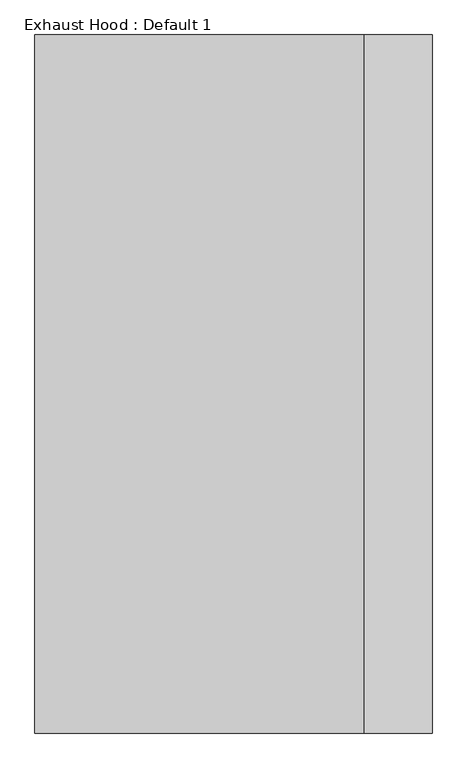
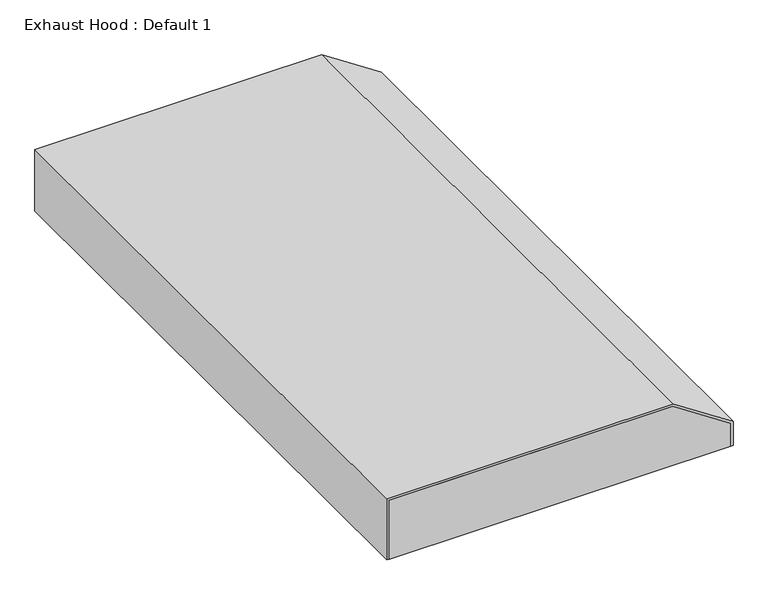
"""IFC4 building model written with IfcOpenShell, lengths in millimetres: proxy geometry, Exhaust Hood : Default 1."""

from ifc_helpers import new_model, si_unit, frame, origin, place, context, project, spatial, polyline, outline, extrude, source, transform, mapped, element, save


def exhaust_hood_default_1_44690a08(model_context):
    return source(origin(), model_context, "Body", "SweptSolid", [
        extrude(outline(polyline([(2279.65, 670.9336282), (2279.65, 6.35), (2133.6, 6.35), (2133.6, 806.45), (2189.8842631, 806.45), (2279.65, 670.9336282)])), frame((0.0, 1422.4, 0.0), z_axis=(0.0, 1.0, 0.0), x_axis=(0.0, 0.0, 1.0)), (0.0, 0.0, 1.0), 6.35),
        extrude(outline(polyline([(2279.65, 670.9336282), (2279.65, 6.35), (2133.6, 6.35), (2133.6, 806.45), (2189.8842631, 806.45), (2279.65, 670.9336282)])), frame((0.0, 0.0, 0.0), z_axis=(0.0, 1.0, 0.0), x_axis=(0.0, 0.0, 1.0)), (0.0, 0.0, 1.0), 6.35),
        extrude(outline(polyline([(2286.0, 672.8459942), (2286.0, 0.0), (2133.6, 0.0), (2133.6, 6.35), (2279.65, 6.35), (2279.65, 670.9336282), (2189.8842631, 806.45), (2133.6, 806.45), (2133.6, 812.8), (2193.2947845, 812.8), (2286.0, 672.8459942)])), frame((0.0, 0.0, 0.0), z_axis=(0.0, 1.0, 0.0), x_axis=(0.0, 0.0, 1.0)), (0.0, 0.0, 1.0), 1428.75),
    ])


if __name__ == "__main__":
    model = new_model("IFC4")
    model_context = context("Model", 3, world=origin())
    ifc_project = project(units=[si_unit("LENGTHUNIT", "METRE", prefix="MILLI")], contexts=[model_context])
    site = spatial("IfcSite", under=ifc_project)
    building = spatial("IfcBuilding", under=site)
    placement = place(None, origin())
    exhaust_hood_default_1_shape = exhaust_hood_default_1_44690a08(model_context)
    element("IfcBuildingElementProxy", 1, Name="Exhaust Hood : Default 1", ObjectType="Exhaust Hood : Default 1", at=placement, inside=building, context=model_context, shape_type="MappedRepresentation", body=[
        mapped(exhaust_hood_default_1_shape, transform((0.0, 0.0, 0.0), x_axis=(1.0, 0.0, 0.0), y_axis=(0.0, 1.0, 0.0), z_axis=(0.0, 0.0, 1.0))),
    ])
    save(model, "model.ifc")
